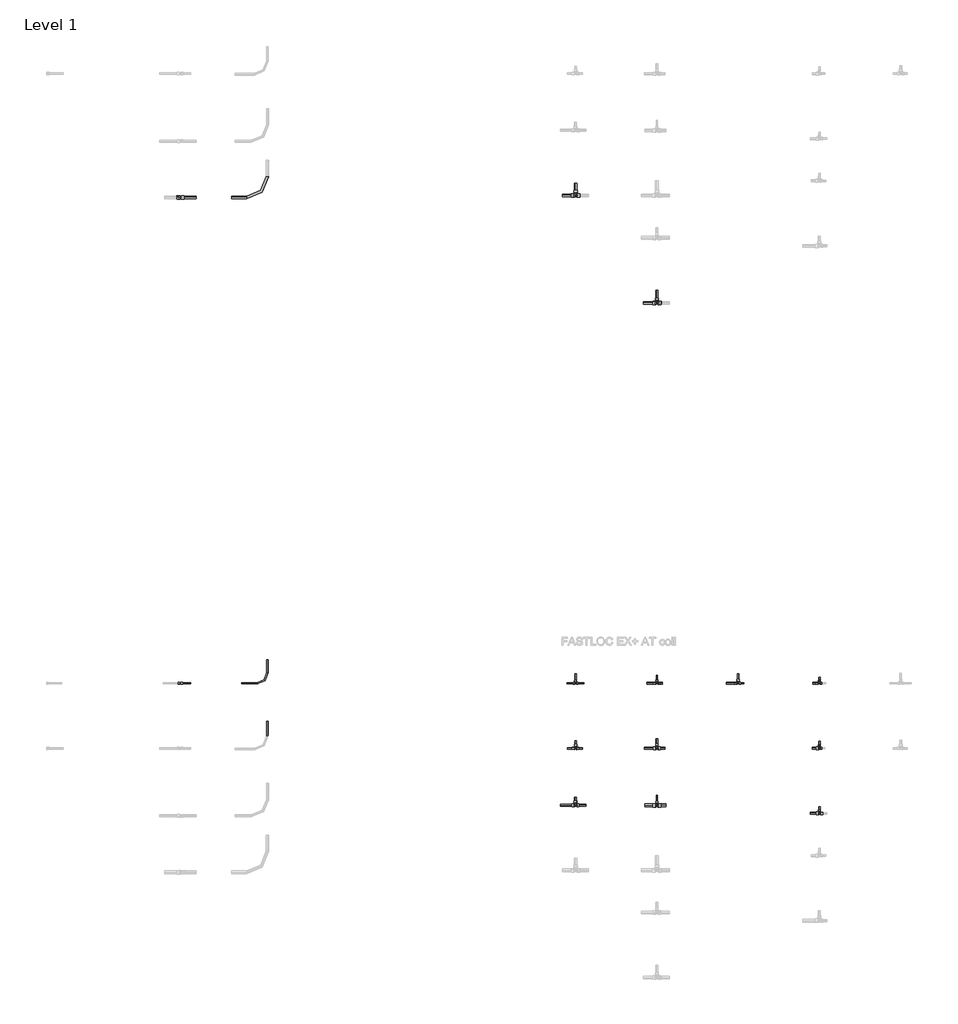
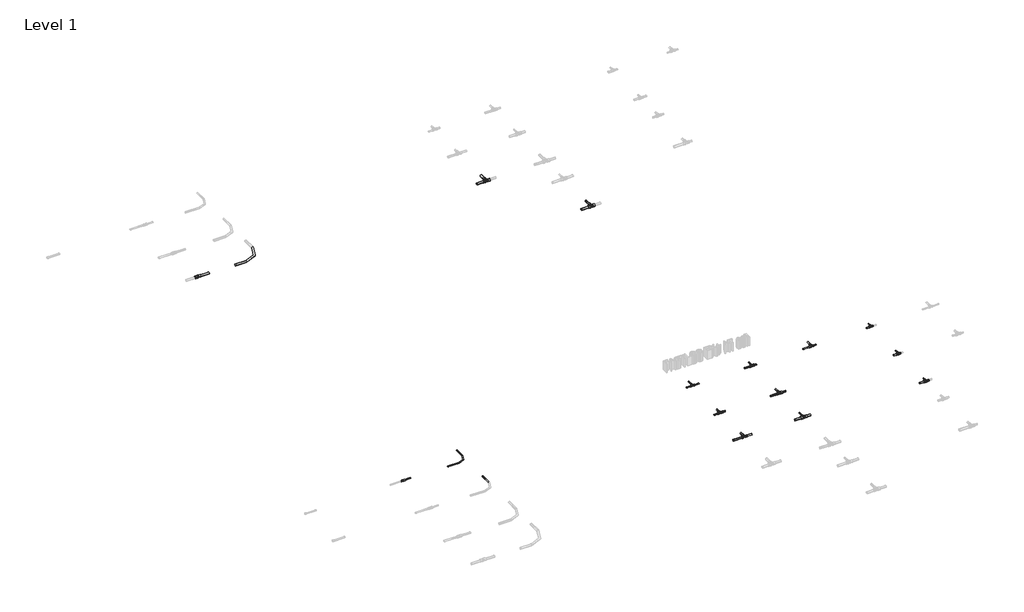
# One storey, part 6 of 16: 37 pipe segments, 18 pipe fittings.
"""IFC4 building model written with IfcOpenShell, lengths in millimetres."""

from ifc_helpers import new_model, si_unit, point, frame, frame_2d, origin, place, context, project, spatial, circle_curve, trimmed, segment, composite_curve, outline, extrude, transform, mapped, element, save
from components import pipe_fitting_ffedae39, pipe_fitting_7921c085, pipe_fitting_137fcba6, pipe_fitting_67dfde5a, pipe_fitting_bb304fa9, pipe_fitting_59775212, pipe_fitting_747b917b, pipe_fitting_d1a48cca, pipe_fitting_e42a4af1, pipe_fitting_e7337aea, pipe_fitting_b316c006, pipe_fitting_93b3fcde, pipe_fitting_ef50923d, pipe_fitting_f3faa13c, pipe_fitting_a9a2f976, pipe_fitting_c9c9eba3, pipe_fitting_a8fbe6ac, pipe_fitting_beb2161e

model = new_model("IFC4")

# Units and contexts
model_context = context("Model", 3, world=origin())
ifc_project = project(units=[si_unit("LENGTHUNIT", "METRE", prefix="MILLI")], contexts=[model_context])

# Site, building, storey
site = spatial("IfcSite", under=ifc_project)
building = spatial("IfcBuilding", under=site)
storey = spatial("IfcBuildingStorey", under=building, Name="Level 1", Elevation=0.0)

# Pipe fittings
placement = place(None, origin())
pipe_fitting_shape = pipe_fitting_ffedae39(model_context)
element("IfcPipeFitting", 1, ObjectType="FASTLOC_ML_bend : FSL ML DE", at=placement, inside=storey, context=model_context, shape_type="MappedRepresentation", body=[
    mapped(pipe_fitting_shape, transform((25170.2040344, -311.8142398, 0.0), x_axis=(1.0, 0.0, 0.0), y_axis=(0.0, 1.0, 0.0), z_axis=(0.0, 0.0, 1.0))),
])
pipe_fitting_2_shape = pipe_fitting_7921c085(model_context)
element("IfcPipeFitting", 2, ObjectType="FASTLOC_T-piece_EX+ : FSL T-Piece EX+ DE", at=placement, inside=storey, context=model_context, shape_type="MappedRepresentation", body=[
    mapped(pipe_fitting_2_shape, transform((28962.9146925, -287.6479967, 0.0), x_axis=(1.0, 0.0, 0.0), y_axis=(0.0, 1.0, 0.0), z_axis=(0.0, 0.0, 1.0))),
])
pipe_fitting_3_shape = pipe_fitting_137fcba6(model_context)
element("IfcPipeFitting", 3, ObjectType="FASTLOC_T-piece_EX+ : FSL T-Piece EX+ DE", at=placement, inside=storey, context=model_context, shape_type="MappedRepresentation", body=[
    mapped(pipe_fitting_3_shape, transform((29962.9146925, -1607.6479967, 0.0), x_axis=(1.0, 0.0, 0.0), y_axis=(0.0, 1.0, 0.0), z_axis=(0.0, 0.0, 1.0))),
])
pipe_fitting_4_shape = pipe_fitting_67dfde5a(model_context)
element("IfcPipeFitting", 4, ObjectType="FASTLOC_T-piece_EX+ : FSL T-Piece EX+ AT", at=placement, inside=storey, context=model_context, shape_type="MappedRepresentation", body=[
    mapped(pipe_fitting_4_shape, transform((28962.9146925, -6287.6479967, 0.0), x_axis=(1.0, 0.0, 0.0), y_axis=(0.0, 1.0, 0.0), z_axis=(0.0, 0.0, 1.0))),
])
pipe_fitting_5_shape = pipe_fitting_bb304fa9(model_context)
element("IfcPipeFitting", 5, ObjectType="FASTLOC_T-piece_EX+ : FSL T-Piece EX+ AT", at=placement, inside=storey, context=model_context, shape_type="MappedRepresentation", body=[
    mapped(pipe_fitting_5_shape, transform((28962.9146925, -7087.6479967, 0.0), x_axis=(1.0, 0.0, 0.0), y_axis=(0.0, 1.0, 0.0), z_axis=(0.0, 0.0, 1.0))),
])
pipe_fitting_6_shape = pipe_fitting_59775212(model_context)
element("IfcPipeFitting", 6, ObjectType="FASTLOC_T-piece_EX+ : FSL T-Piece EX+ AT", at=placement, inside=storey, context=model_context, shape_type="MappedRepresentation", body=[
    mapped(pipe_fitting_6_shape, transform((28962.9146925, -7787.6479967, 0.0), x_axis=(1.0, 0.0, 0.0), y_axis=(0.0, 1.0, 0.0), z_axis=(0.0, 0.0, 1.0))),
])
pipe_fitting_7_shape = pipe_fitting_747b917b(model_context)
element("IfcPipeFitting", 7, ObjectType="FASTLOC_T-piece_EX+ : FSL T-Piece EX+ AT", at=placement, inside=storey, context=model_context, shape_type="MappedRepresentation", body=[
    mapped(pipe_fitting_7_shape, transform((29962.9146925, -6287.6479967, 0.0), x_axis=(1.0, 0.0, 0.0), y_axis=(0.0, 1.0, 0.0), z_axis=(0.0, 0.0, 1.0))),
])
pipe_fitting_8_shape = pipe_fitting_d1a48cca(model_context)
element("IfcPipeFitting", 8, ObjectType="FASTLOC_T-piece_EX+ : FSL T-Piece EX+ AT", at=placement, inside=storey, context=model_context, shape_type="MappedRepresentation", body=[
    mapped(pipe_fitting_8_shape, transform((29962.9146925, -7087.6479967, 0.0), x_axis=(1.0, 0.0, 0.0), y_axis=(0.0, 1.0, 0.0), z_axis=(0.0, 0.0, 1.0))),
])
pipe_fitting_9_shape = pipe_fitting_e42a4af1(model_context)
element("IfcPipeFitting", 9, ObjectType="FASTLOC_T-piece_EX+ : FSL T-Piece EX+ AT", at=placement, inside=storey, context=model_context, shape_type="MappedRepresentation", body=[
    mapped(pipe_fitting_9_shape, transform((29962.9146925, -7787.6479967, 0.0), x_axis=(1.0, 0.0, 0.0), y_axis=(0.0, 1.0, 0.0), z_axis=(0.0, 0.0, 1.0))),
])
pipe_fitting_10_shape = pipe_fitting_e7337aea(model_context)
element("IfcPipeFitting", 10, ObjectType="FASTLOC_T-piece_EX+ : FSL T-Piece EX+ AT", at=placement, inside=storey, context=model_context, shape_type="MappedRepresentation", body=[
    mapped(pipe_fitting_10_shape, transform((30962.9146925, -6287.6479967, 0.0), x_axis=(1.0, 0.0, 0.0), y_axis=(0.0, 1.0, 0.0), z_axis=(0.0, 0.0, 1.0))),
])
pipe_fitting_11_shape = pipe_fitting_b316c006(model_context)
element("IfcPipeFitting", 11, ObjectType="FASTLOC_T-piece_EX+ : FSL T-Piece EX+ AT", at=placement, inside=storey, context=model_context, shape_type="MappedRepresentation", body=[
    mapped(pipe_fitting_11_shape, transform((31962.9146925, -6287.6479967, 0.0), x_axis=(1.0, 0.0, 0.0), y_axis=(0.0, 1.0, 0.0), z_axis=(0.0, 0.0, 1.0))),
])
pipe_fitting_12_shape = pipe_fitting_93b3fcde(model_context)
element("IfcPipeFitting", 12, ObjectType="FASTLOC_T-piece_EX+ : FSL T-Piece EX+ AT", at=placement, inside=storey, context=model_context, shape_type="MappedRepresentation", body=[
    mapped(pipe_fitting_12_shape, transform((31962.9146925, -7087.6479967, 0.0), x_axis=(1.0, 0.0, 0.0), y_axis=(0.0, 1.0, 0.0), z_axis=(0.0, 0.0, 1.0))),
])
pipe_fitting_13_shape = pipe_fitting_ef50923d(model_context)
element("IfcPipeFitting", 13, ObjectType="FASTLOC_T-piece_EX+ : FSL T-Piece EX+ AT", at=placement, inside=storey, context=model_context, shape_type="MappedRepresentation", body=[
    mapped(pipe_fitting_13_shape, transform((31962.9146925, -7887.6479967, 0.0), x_axis=(1.0, 0.0, 0.0), y_axis=(0.0, 1.0, 0.0), z_axis=(0.0, 0.0, 1.0))),
])
pipe_fitting_14_shape = pipe_fitting_f3faa13c(model_context)
element("IfcPipeFitting", 14, ObjectType="FASTLOC_Adapter coupling EX+ : FSL TC EX+ AT", at=placement, inside=storey, context=model_context, shape_type="MappedRepresentation", body=[
    mapped(pipe_fitting_14_shape, transform((24091.3241081, -6287.6479967, 13.7), x_axis=(1.0, 0.0, 0.0), y_axis=(0.0, 1.0, 0.0), z_axis=(0.0, 0.0, 1.0))),
])
pipe_fitting_15_shape = pipe_fitting_a9a2f976(model_context)
element("IfcPipeFitting", 15, ObjectType="FASTLOC_ML_bend : FSL ML AT", at=placement, inside=storey, context=model_context, shape_type="MappedRepresentation", body=[
    mapped(pipe_fitting_15_shape, transform((25170.2040344, -6287.6479967, 0.0), x_axis=(1.0, 0.0, 0.0), y_axis=(0.0, 1.0, 0.0), z_axis=(0.0, 0.0, 1.0))),
])
pipe_fitting_16_shape = pipe_fitting_c9c9eba3(model_context)
element("IfcPipeFitting", 16, ObjectType="RAUTITAN_Sleeve PX : RTI S PX", at=placement, inside=storey, context=model_context, shape_type="MappedRepresentation", body=[
    mapped(pipe_fitting_16_shape, transform((24105.0241081, -6287.6479967, 13.7), x_axis=(1.0, 0.0, 0.0), y_axis=(0.0, 1.0, 0.0), z_axis=(0.0, 0.0, 1.0))),
])
pipe_fitting_17_shape = pipe_fitting_a8fbe6ac(model_context)
element("IfcPipeFitting", 17, ObjectType="RAUTITAN_Sleeve PX : RTI S PX", at=placement, inside=storey, context=model_context, shape_type="MappedRepresentation", body=[
    mapped(pipe_fitting_17_shape, transform((24110.6241081, -311.8142398, 13.7), x_axis=(1.0, 0.0, 0.0), y_axis=(0.0, 1.0, 0.0), z_axis=(0.0, 0.0, 1.0))),
])
pipe_fitting_18_shape = pipe_fitting_beb2161e(model_context)
element("IfcPipeFitting", 18, ObjectType="FASTLOC_Adapter coupling EX+ : FSL TC EX+ DE", at=placement, inside=storey, context=model_context, shape_type="MappedRepresentation", body=[
    mapped(pipe_fitting_18_shape, transform((24091.3241081, -311.8142398, 13.7), x_axis=(1.0, 0.0, 0.0), y_axis=(0.0, 1.0, 0.0), z_axis=(0.0, 0.0, 1.0))),
])

# Pipe segments
element("IfcPipeSegment", 19, ObjectType="FASTLOC EX+ ML DE bar", at=placement, inside=storey, context=model_context, shape_type="SweptSolid", body=[
    extrude(outline(composite_curve([segment(trimmed(circle_curve(frame_2d((-311.8142398, 0.0)), 16.0), [point((-295.8142398, 0.0))], [point((-311.8142398, -16.0))], False, "CARTESIAN"), True, "CONTINUOUS"), segment(trimmed(circle_curve(frame_2d((-311.8142398, 0.0)), 16.0), [point((-311.8142398, -16.0))], [point((-327.8142398, 0.0))], False, "CARTESIAN"), True, "CONTINUOUS"), segment(trimmed(circle_curve(frame_2d((-311.8142398, 0.0)), 16.0), [point((-327.8142398, 0.0))], [point((-311.8142398, 16.0))], False, "CARTESIAN"), True, "CONTINUOUS"), segment(trimmed(circle_curve(frame_2d((-311.8142398, 0.0)), 16.0), [point((-311.8142398, 16.0))], [point((-295.8142398, 0.0))], False, "CARTESIAN"), True, "CONTINUOUS")], self_intersect=False)), frame((24730.2040344, 0.0, 0.0), z_axis=(1.0, 0.0, 0.0), x_axis=(0.0, 1.0, 0.0)), (0.0, 0.0, 1.0), 184.0),
])
element("IfcPipeSegment", 20, ObjectType="FASTLOC EX+ ML DE bar", at=placement, inside=storey, context=model_context, shape_type="SweptSolid", body=[
    extrude(outline(composite_curve([segment(trimmed(circle_curve(frame_2d((-311.8142398, 13.7)), 16.0), [point((-327.8142398, 13.7))], [point((-311.8142398, 29.7))], False, "CARTESIAN"), True, "CONTINUOUS"), segment(trimmed(circle_curve(frame_2d((-311.8142398, 13.7)), 16.0), [point((-311.8142398, 29.7))], [point((-295.8142398, 13.7))], False, "CARTESIAN"), True, "CONTINUOUS"), segment(trimmed(circle_curve(frame_2d((-311.8142398, 13.7)), 16.0), [point((-295.8142398, 13.7))], [point((-311.8142398, -2.3))], False, "CARTESIAN"), True, "CONTINUOUS"), segment(trimmed(circle_curve(frame_2d((-311.8142398, 13.7)), 16.0), [point((-311.8142398, -2.3))], [point((-327.8142398, 13.7))], False, "CARTESIAN"), True, "CONTINUOUS")], self_intersect=False)), frame((24110.6241081, 0.0, 0.0), z_axis=(1.0, 0.0, 0.0), x_axis=(0.0, 1.0, 0.0)), (0.0, 0.0, 1.0), 180.0),
])
element("IfcPipeSegment", 21, ObjectType="FASTLOC EX+ ML AT bar", at=placement, inside=storey, context=model_context, shape_type="SweptSolid", body=[
    extrude(outline(composite_curve([segment(trimmed(circle_curve(frame_2d((0.0, 25170.2040344)), 8.0), [point((0.0, 25178.2040344))], [point((8.0, 25170.2040344))], False, "CARTESIAN"), True, "CONTINUOUS"), segment(trimmed(circle_curve(frame_2d((0.0, 25170.2040344)), 8.0), [point((8.0, 25170.2040344))], [point((0.0, 25162.2040344))], False, "CARTESIAN"), True, "CONTINUOUS"), segment(trimmed(circle_curve(frame_2d((0.0, 25170.2040344)), 8.0), [point((0.0, 25162.2040344))], [point((-8.0, 25170.2040344))], False, "CARTESIAN"), True, "CONTINUOUS"), segment(trimmed(circle_curve(frame_2d((0.0, 25170.2040344)), 8.0), [point((-8.0, 25170.2040344))], [point((0.0, 25178.2040344))], False, "CARTESIAN"), True, "CONTINUOUS")], self_intersect=False)), frame((0.0, -6159.6479967, 0.0), z_axis=(0.0, 1.0, 0.0), x_axis=(0.0, 0.0, 1.0)), (0.0, 0.0, 1.0), 160.0),
])
element("IfcPipeSegment", 22, ObjectType="FASTLOC EX+ ML AT bar", at=placement, inside=storey, context=model_context, shape_type="SweptSolid", body=[
    extrude(outline(composite_curve([segment(trimmed(circle_curve(frame_2d((-6287.6479967, 0.0)), 8.0), [point((-6279.6479967, 0.0))], [point((-6287.6479967, -8.0))], False, "CARTESIAN"), True, "CONTINUOUS"), segment(trimmed(circle_curve(frame_2d((-6287.6479967, 0.0)), 8.0), [point((-6287.6479967, -8.0))], [point((-6295.6479967, 0.0))], False, "CARTESIAN"), True, "CONTINUOUS"), segment(trimmed(circle_curve(frame_2d((-6287.6479967, 0.0)), 8.0), [point((-6295.6479967, 0.0))], [point((-6287.6479967, 8.0))], False, "CARTESIAN"), True, "CONTINUOUS"), segment(trimmed(circle_curve(frame_2d((-6287.6479967, 0.0)), 8.0), [point((-6287.6479967, 8.0))], [point((-6279.6479967, 0.0))], False, "CARTESIAN"), True, "CONTINUOUS")], self_intersect=False)), frame((24850.2040344, 0.0, 0.0), z_axis=(1.0, 0.0, 0.0), x_axis=(0.0, 1.0, 0.0)), (0.0, 0.0, 1.0), 192.0),
])
element("IfcPipeSegment", 23, ObjectType="FASTLOC EX+ ML AT bar", at=placement, inside=storey, context=model_context, shape_type="SweptSolid", body=[
    extrude(outline(composite_curve([segment(trimmed(circle_curve(frame_2d((0.0, 25170.2040344)), 10.0), [point((0.0, 25180.2040344))], [point((10.0, 25170.2040344))], False, "CARTESIAN"), True, "CONTINUOUS"), segment(trimmed(circle_curve(frame_2d((0.0, 25170.2040344)), 10.0), [point((10.0, 25170.2040344))], [point((0.0, 25160.2040344))], False, "CARTESIAN"), True, "CONTINUOUS"), segment(trimmed(circle_curve(frame_2d((0.0, 25170.2040344)), 10.0), [point((0.0, 25160.2040344))], [point((-10.0, 25170.2040344))], False, "CARTESIAN"), True, "CONTINUOUS"), segment(trimmed(circle_curve(frame_2d((0.0, 25170.2040344)), 10.0), [point((-10.0, 25170.2040344))], [point((0.0, 25180.2040344))], False, "CARTESIAN"), True, "CONTINUOUS")], self_intersect=False)), frame((0.0, -6935.6479967, 0.0), z_axis=(0.0, 1.0, 0.0), x_axis=(0.0, 0.0, 1.0)), (0.0, 0.0, 1.0), 180.0),
])
element("IfcPipeSegment", 24, ObjectType="FASTLOC EX+ ML AT bar", at=placement, inside=storey, context=model_context, shape_type="SweptSolid", body=[
    extrude(outline(composite_curve([segment(trimmed(circle_curve(frame_2d((-6287.6479967, 13.7)), 8.0), [point((-6295.6479967, 13.7))], [point((-6287.6479967, 21.7))], False, "CARTESIAN"), True, "CONTINUOUS"), segment(trimmed(circle_curve(frame_2d((-6287.6479967, 13.7)), 8.0), [point((-6287.6479967, 21.7))], [point((-6279.6479967, 13.7))], False, "CARTESIAN"), True, "CONTINUOUS"), segment(trimmed(circle_curve(frame_2d((-6287.6479967, 13.7)), 8.0), [point((-6279.6479967, 13.7))], [point((-6287.6479967, 5.7))], False, "CARTESIAN"), True, "CONTINUOUS"), segment(trimmed(circle_curve(frame_2d((-6287.6479967, 13.7)), 8.0), [point((-6287.6479967, 5.7))], [point((-6295.6479967, 13.7))], False, "CARTESIAN"), True, "CONTINUOUS")], self_intersect=False)), frame((24105.0241081, 0.0, 0.0), z_axis=(1.0, 0.0, 0.0), x_axis=(0.0, 1.0, 0.0)), (0.0, 0.0, 1.0), 120.6),
])
element("IfcPipeSegment", 25, ObjectType="FASTLOC EX+ ML DE coil", at=placement, inside=storey, context=model_context, shape_type="SweptSolid", body=[
    extrude(outline(composite_curve([segment(trimmed(circle_curve(frame_2d((-1607.6479967, 0.0)), 16.0), [point((-1591.6479967, 0.0))], [point((-1607.6479967, -16.0))], False, "CARTESIAN"), True, "CONTINUOUS"), segment(trimmed(circle_curve(frame_2d((-1607.6479967, 0.0)), 16.0), [point((-1607.6479967, -16.0))], [point((-1623.6479967, 0.0))], False, "CARTESIAN"), True, "CONTINUOUS"), segment(trimmed(circle_curve(frame_2d((-1607.6479967, 0.0)), 16.0), [point((-1623.6479967, 0.0))], [point((-1607.6479967, 16.0))], False, "CARTESIAN"), True, "CONTINUOUS"), segment(trimmed(circle_curve(frame_2d((-1607.6479967, 0.0)), 16.0), [point((-1607.6479967, 16.0))], [point((-1591.6479967, 0.0))], False, "CARTESIAN"), True, "CONTINUOUS")], self_intersect=False)), frame((29795.9146925, 0.0, 0.0), z_axis=(1.0, 0.0, 0.0), x_axis=(0.0, 1.0, 0.0)), (0.0, 0.0, 1.0), 145.0),
])
element("IfcPipeSegment", 26, ObjectType="FASTLOC EX+ ML DE coil", at=placement, inside=storey, context=model_context, shape_type="SweptSolid", body=[
    extrude(outline(composite_curve([segment(trimmed(circle_curve(frame_2d((0.0, 29962.9146925)), 12.5), [point((0.0, 29975.4146925))], [point((12.5, 29962.9146925))], False, "CARTESIAN"), True, "CONTINUOUS"), segment(trimmed(circle_curve(frame_2d((0.0, 29962.9146925)), 12.5), [point((12.5, 29962.9146925))], [point((0.0, 29950.4146925))], False, "CARTESIAN"), True, "CONTINUOUS"), segment(trimmed(circle_curve(frame_2d((0.0, 29962.9146925)), 12.5), [point((0.0, 29950.4146925))], [point((-12.5, 29962.9146925))], False, "CARTESIAN"), True, "CONTINUOUS"), segment(trimmed(circle_curve(frame_2d((0.0, 29962.9146925)), 12.5), [point((-12.5, 29962.9146925))], [point((0.0, 29975.4146925))], False, "CARTESIAN"), True, "CONTINUOUS")], self_intersect=False)), frame((0.0, -1573.2479967, 0.0), z_axis=(0.0, 1.0, 0.0), x_axis=(0.0, 0.0, 1.0)), (0.0, 0.0, 1.0), 120.0),
])
element("IfcPipeSegment", 27, ObjectType="FASTLOC EX+ ML DE coil", at=placement, inside=storey, context=model_context, shape_type="SweptSolid", body=[
    extrude(outline(composite_curve([segment(trimmed(circle_curve(frame_2d((-287.6479967, 0.0)), 16.0), [point((-271.6479967, 0.0))], [point((-287.6479967, -16.0))], False, "CARTESIAN"), True, "CONTINUOUS"), segment(trimmed(circle_curve(frame_2d((-287.6479967, 0.0)), 16.0), [point((-287.6479967, -16.0))], [point((-303.6479967, 0.0))], False, "CARTESIAN"), True, "CONTINUOUS"), segment(trimmed(circle_curve(frame_2d((-287.6479967, 0.0)), 16.0), [point((-303.6479967, 0.0))], [point((-287.6479967, 16.0))], False, "CARTESIAN"), True, "CONTINUOUS"), segment(trimmed(circle_curve(frame_2d((-287.6479967, 0.0)), 16.0), [point((-287.6479967, 16.0))], [point((-271.6479967, 0.0))], False, "CARTESIAN"), True, "CONTINUOUS")], self_intersect=False)), frame((28803.1146925, 0.0, 0.0), z_axis=(1.0, 0.0, 0.0), x_axis=(0.0, 1.0, 0.0)), (0.0, 0.0, 1.0), 135.0),
])
element("IfcPipeSegment", 28, ObjectType="FASTLOC EX+ ML DE coil", at=placement, inside=storey, context=model_context, shape_type="SweptSolid", body=[
    extrude(outline(composite_curve([segment(trimmed(circle_curve(frame_2d((0.0, 28962.9146925)), 16.0), [point((0.0, 28978.9146925))], [point((16.0, 28962.9146925))], False, "CARTESIAN"), True, "CONTINUOUS"), segment(trimmed(circle_curve(frame_2d((0.0, 28962.9146925)), 16.0), [point((16.0, 28962.9146925))], [point((0.0, 28946.9146925))], False, "CARTESIAN"), True, "CONTINUOUS"), segment(trimmed(circle_curve(frame_2d((0.0, 28962.9146925)), 16.0), [point((0.0, 28946.9146925))], [point((-16.0, 28962.9146925))], False, "CARTESIAN"), True, "CONTINUOUS"), segment(trimmed(circle_curve(frame_2d((0.0, 28962.9146925)), 16.0), [point((-16.0, 28962.9146925))], [point((0.0, 28978.9146925))], False, "CARTESIAN"), True, "CONTINUOUS")], self_intersect=False)), frame((0.0, -251.5479967, 0.0), z_axis=(0.0, 1.0, 0.0), x_axis=(0.0, 0.0, 1.0)), (0.0, 0.0, 1.0), 115.0),
])
element("IfcPipeSegment", 29, ObjectType="FASTLOC EX+ ML AT coil", at=placement, inside=storey, context=model_context, shape_type="SweptSolid", body=[
    extrude(outline(composite_curve([segment(trimmed(circle_curve(frame_2d((-6287.6479967, 0.0)), 10.0), [point((-6277.6479967, 0.0))], [point((-6287.6479967, -10.0))], False, "CARTESIAN"), True, "CONTINUOUS"), segment(trimmed(circle_curve(frame_2d((-6287.6479967, 0.0)), 10.0), [point((-6287.6479967, -10.0))], [point((-6297.6479967, 0.0))], False, "CARTESIAN"), True, "CONTINUOUS"), segment(trimmed(circle_curve(frame_2d((-6287.6479967, 0.0)), 10.0), [point((-6297.6479967, 0.0))], [point((-6287.6479967, 10.0))], False, "CARTESIAN"), True, "CONTINUOUS"), segment(trimmed(circle_curve(frame_2d((-6287.6479967, 0.0)), 10.0), [point((-6287.6479967, 10.0))], [point((-6277.6479967, 0.0))], False, "CARTESIAN"), True, "CONTINUOUS")], self_intersect=False)), frame((31882.4146925, 0.0, 0.0), z_axis=(1.0, 0.0, 0.0), x_axis=(0.0, 1.0, 0.0)), (0.0, 0.0, 1.0), 65.0),
])
element("IfcPipeSegment", 30, ObjectType="FASTLOC EX+ ML AT coil", at=placement, inside=storey, context=model_context, shape_type="SweptSolid", body=[
    extrude(outline(composite_curve([segment(trimmed(circle_curve(frame_2d((0.0, 31962.9146925)), 8.0), [point((0.0, 31970.9146925))], [point((8.0, 31962.9146925))], False, "CARTESIAN"), True, "CONTINUOUS"), segment(trimmed(circle_curve(frame_2d((0.0, 31962.9146925)), 8.0), [point((8.0, 31962.9146925))], [point((0.0, 31954.9146925))], False, "CARTESIAN"), True, "CONTINUOUS"), segment(trimmed(circle_curve(frame_2d((0.0, 31962.9146925)), 8.0), [point((0.0, 31954.9146925))], [point((-8.0, 31962.9146925))], False, "CARTESIAN"), True, "CONTINUOUS"), segment(trimmed(circle_curve(frame_2d((0.0, 31962.9146925)), 8.0), [point((-8.0, 31962.9146925))], [point((0.0, 31970.9146925))], False, "CARTESIAN"), True, "CONTINUOUS")], self_intersect=False)), frame((0.0, -6261.2479967, 0.0), z_axis=(0.0, 1.0, 0.0), x_axis=(0.0, 0.0, 1.0)), (0.0, 0.0, 1.0), 50.0),
])
element("IfcPipeSegment", 31, ObjectType="FASTLOC EX+ ML AT coil", at=placement, inside=storey, context=model_context, shape_type="SweptSolid", body=[
    extrude(outline(composite_curve([segment(trimmed(circle_curve(frame_2d((-7087.6479967, 0.0)), 12.5), [point((-7075.1479967, 0.0))], [point((-7087.6479967, -12.5))], False, "CARTESIAN"), True, "CONTINUOUS"), segment(trimmed(circle_curve(frame_2d((-7087.6479967, 0.0)), 12.5), [point((-7087.6479967, -12.5))], [point((-7100.1479967, 0.0))], False, "CARTESIAN"), True, "CONTINUOUS"), segment(trimmed(circle_curve(frame_2d((-7087.6479967, 0.0)), 12.5), [point((-7100.1479967, 0.0))], [point((-7087.6479967, 12.5))], False, "CARTESIAN"), True, "CONTINUOUS"), segment(trimmed(circle_curve(frame_2d((-7087.6479967, 0.0)), 12.5), [point((-7087.6479967, 12.5))], [point((-7075.1479967, 0.0))], False, "CARTESIAN"), True, "CONTINUOUS")], self_intersect=False)), frame((31876.5146925, 0.0, 0.0), z_axis=(1.0, 0.0, 0.0), x_axis=(0.0, 1.0, 0.0)), (0.0, 0.0, 1.0), 70.0),
])
element("IfcPipeSegment", 32, ObjectType="FASTLOC EX+ ML AT coil", at=placement, inside=storey, context=model_context, shape_type="SweptSolid", body=[
    extrude(outline(composite_curve([segment(trimmed(circle_curve(frame_2d((0.0, 31962.9146925)), 8.0), [point((0.0, 31970.9146925))], [point((8.0, 31962.9146925))], False, "CARTESIAN"), True, "CONTINUOUS"), segment(trimmed(circle_curve(frame_2d((0.0, 31962.9146925)), 8.0), [point((8.0, 31962.9146925))], [point((0.0, 31954.9146925))], False, "CARTESIAN"), True, "CONTINUOUS"), segment(trimmed(circle_curve(frame_2d((0.0, 31962.9146925)), 8.0), [point((0.0, 31954.9146925))], [point((-8.0, 31962.9146925))], False, "CARTESIAN"), True, "CONTINUOUS"), segment(trimmed(circle_curve(frame_2d((0.0, 31962.9146925)), 8.0), [point((-8.0, 31962.9146925))], [point((0.0, 31970.9146925))], False, "CARTESIAN"), True, "CONTINUOUS")], self_intersect=False)), frame((0.0, -7058.5479967, 0.0), z_axis=(0.0, 1.0, 0.0), x_axis=(0.0, 0.0, 1.0)), (0.0, 0.0, 1.0), 57.2788778),
])
element("IfcPipeSegment", 33, ObjectType="FASTLOC EX+ ML AT coil", at=placement, inside=storey, context=model_context, shape_type="SweptSolid", body=[
    extrude(outline(composite_curve([segment(trimmed(circle_curve(frame_2d((0.0, 31962.9146925)), 8.0), [point((0.0, 31970.9146925))], [point((8.0, 31962.9146925))], False, "CARTESIAN"), True, "CONTINUOUS"), segment(trimmed(circle_curve(frame_2d((0.0, 31962.9146925)), 8.0), [point((8.0, 31962.9146925))], [point((0.0, 31954.9146925))], False, "CARTESIAN"), True, "CONTINUOUS"), segment(trimmed(circle_curve(frame_2d((0.0, 31962.9146925)), 8.0), [point((0.0, 31954.9146925))], [point((-8.0, 31962.9146925))], False, "CARTESIAN"), True, "CONTINUOUS"), segment(trimmed(circle_curve(frame_2d((0.0, 31962.9146925)), 8.0), [point((-8.0, 31962.9146925))], [point((0.0, 31970.9146925))], False, "CARTESIAN"), True, "CONTINUOUS")], self_intersect=False)), frame((0.0, -7858.5479967, 0.0), z_axis=(0.0, 1.0, 0.0), x_axis=(0.0, 0.0, 1.0)), (0.0, 0.0, 1.0), 50.0),
])
element("IfcPipeSegment", 34, ObjectType="FASTLOC EX+ ML AT coil", at=placement, inside=storey, context=model_context, shape_type="SweptSolid", body=[
    extrude(outline(composite_curve([segment(trimmed(circle_curve(frame_2d((-7887.6479967, 0.0)), 12.5), [point((-7875.1479967, 0.0))], [point((-7887.6479967, -12.5))], False, "CARTESIAN"), True, "CONTINUOUS"), segment(trimmed(circle_curve(frame_2d((-7887.6479967, 0.0)), 12.5), [point((-7887.6479967, -12.5))], [point((-7900.1479967, 0.0))], False, "CARTESIAN"), True, "CONTINUOUS"), segment(trimmed(circle_curve(frame_2d((-7887.6479967, 0.0)), 12.5), [point((-7900.1479967, 0.0))], [point((-7887.6479967, 12.5))], False, "CARTESIAN"), True, "CONTINUOUS"), segment(trimmed(circle_curve(frame_2d((-7887.6479967, 0.0)), 12.5), [point((-7887.6479967, 12.5))], [point((-7875.1479967, 0.0))], False, "CARTESIAN"), True, "CONTINUOUS")], self_intersect=False)), frame((31851.5146925, 0.0, 0.0), z_axis=(1.0, 0.0, 0.0), x_axis=(0.0, 1.0, 0.0)), (0.0, 0.0, 1.0), 95.0),
])
element("IfcPipeSegment", 35, ObjectType="FASTLOC EX+ ML AT coil", at=placement, inside=storey, context=model_context, shape_type="SweptSolid", body=[
    extrude(outline(composite_curve([segment(trimmed(circle_curve(frame_2d((-6287.6479967, 0.0)), 8.0), [point((-6295.6479967, 0.0))], [point((-6287.6479967, 8.0))], False, "CARTESIAN"), True, "CONTINUOUS"), segment(trimmed(circle_curve(frame_2d((-6287.6479967, 0.0)), 8.0), [point((-6287.6479967, 8.0))], [point((-6279.6479967, 0.0))], False, "CARTESIAN"), True, "CONTINUOUS"), segment(trimmed(circle_curve(frame_2d((-6287.6479967, 0.0)), 8.0), [point((-6279.6479967, 0.0))], [point((-6287.6479967, -8.0))], False, "CARTESIAN"), True, "CONTINUOUS"), segment(trimmed(circle_curve(frame_2d((-6287.6479967, 0.0)), 8.0), [point((-6287.6479967, -8.0))], [point((-6295.6479967, 0.0))], False, "CARTESIAN"), True, "CONTINUOUS")], self_intersect=False)), frame((30979.9146925, 0.0, 0.0), z_axis=(1.0, 0.0, 0.0), x_axis=(0.0, 1.0, 0.0)), (0.0, 0.0, 1.0), 55.0),
])
element("IfcPipeSegment", 36, ObjectType="FASTLOC EX+ ML AT coil", at=placement, inside=storey, context=model_context, shape_type="SweptSolid", body=[
    extrude(outline(composite_curve([segment(trimmed(circle_curve(frame_2d((0.0, 30962.9146925)), 10.0), [point((0.0, 30972.9146925))], [point((10.0, 30962.9146925))], False, "CARTESIAN"), True, "CONTINUOUS"), segment(trimmed(circle_curve(frame_2d((0.0, 30962.9146925)), 10.0), [point((10.0, 30962.9146925))], [point((0.0, 30952.9146925))], False, "CARTESIAN"), True, "CONTINUOUS"), segment(trimmed(circle_curve(frame_2d((0.0, 30962.9146925)), 10.0), [point((0.0, 30952.9146925))], [point((-10.0, 30962.9146925))], False, "CARTESIAN"), True, "CONTINUOUS"), segment(trimmed(circle_curve(frame_2d((0.0, 30962.9146925)), 10.0), [point((-10.0, 30962.9146925))], [point((0.0, 30972.9146925))], False, "CARTESIAN"), True, "CONTINUOUS")], self_intersect=False)), frame((0.0, -6261.2479967, 0.0), z_axis=(0.0, 1.0, 0.0), x_axis=(0.0, 0.0, 1.0)), (0.0, 0.0, 1.0), 90.0),
])
element("IfcPipeSegment", 37, ObjectType="FASTLOC EX+ ML AT coil", at=placement, inside=storey, context=model_context, shape_type="SweptSolid", body=[
    extrude(outline(composite_curve([segment(trimmed(circle_curve(frame_2d((-6287.6479967, 0.0)), 10.0), [point((-6277.6479967, 0.0))], [point((-6287.6479967, -10.0))], False, "CARTESIAN"), True, "CONTINUOUS"), segment(trimmed(circle_curve(frame_2d((-6287.6479967, 0.0)), 10.0), [point((-6287.6479967, -10.0))], [point((-6297.6479967, 0.0))], False, "CARTESIAN"), True, "CONTINUOUS"), segment(trimmed(circle_curve(frame_2d((-6287.6479967, 0.0)), 10.0), [point((-6297.6479967, 0.0))], [point((-6287.6479967, 10.0))], False, "CARTESIAN"), True, "CONTINUOUS"), segment(trimmed(circle_curve(frame_2d((-6287.6479967, 0.0)), 10.0), [point((-6287.6479967, 10.0))], [point((-6277.6479967, 0.0))], False, "CARTESIAN"), True, "CONTINUOUS")], self_intersect=False)), frame((30815.5146925, 0.0, 0.0), z_axis=(1.0, 0.0, 0.0), x_axis=(0.0, 1.0, 0.0)), (0.0, 0.0, 1.0), 130.0),
])
element("IfcPipeSegment", 38, ObjectType="FASTLOC EX+ ML AT coil", at=placement, inside=storey, context=model_context, shape_type="SweptSolid", body=[
    extrude(outline(composite_curve([segment(trimmed(circle_curve(frame_2d((-6287.6479967, 0.0)), 10.0), [point((-6297.6479967, 0.0))], [point((-6287.6479967, 10.0))], False, "CARTESIAN"), True, "CONTINUOUS"), segment(trimmed(circle_curve(frame_2d((-6287.6479967, 0.0)), 10.0), [point((-6287.6479967, 10.0))], [point((-6277.6479967, 0.0))], False, "CARTESIAN"), True, "CONTINUOUS"), segment(trimmed(circle_curve(frame_2d((-6287.6479967, 0.0)), 10.0), [point((-6277.6479967, 0.0))], [point((-6287.6479967, -10.0))], False, "CARTESIAN"), True, "CONTINUOUS"), segment(trimmed(circle_curve(frame_2d((-6287.6479967, 0.0)), 10.0), [point((-6287.6479967, -10.0))], [point((-6297.6479967, 0.0))], False, "CARTESIAN"), True, "CONTINUOUS")], self_intersect=False)), frame((29978.2146925, 0.0, 0.0), z_axis=(1.0, 0.0, 0.0), x_axis=(0.0, 1.0, 0.0)), (0.0, 0.0, 1.0), 55.0),
])
element("IfcPipeSegment", 39, ObjectType="FASTLOC EX+ ML AT coil", at=placement, inside=storey, context=model_context, shape_type="SweptSolid", body=[
    extrude(outline(composite_curve([segment(trimmed(circle_curve(frame_2d((0.0, 29962.9146925)), 8.0), [point((0.0, 29970.9146925))], [point((8.0, 29962.9146925))], False, "CARTESIAN"), True, "CONTINUOUS"), segment(trimmed(circle_curve(frame_2d((0.0, 29962.9146925)), 8.0), [point((8.0, 29962.9146925))], [point((0.0, 29954.9146925))], False, "CARTESIAN"), True, "CONTINUOUS"), segment(trimmed(circle_curve(frame_2d((0.0, 29962.9146925)), 8.0), [point((0.0, 29954.9146925))], [point((-8.0, 29962.9146925))], False, "CARTESIAN"), True, "CONTINUOUS"), segment(trimmed(circle_curve(frame_2d((0.0, 29962.9146925)), 8.0), [point((-8.0, 29962.9146925))], [point((0.0, 29970.9146925))], False, "CARTESIAN"), True, "CONTINUOUS")], self_intersect=False)), frame((0.0, -6261.3479967, 0.0), z_axis=(0.0, 1.0, 0.0), x_axis=(0.0, 0.0, 1.0)), (0.0, 0.0, 1.0), 70.0),
])
element("IfcPipeSegment", 40, ObjectType="FASTLOC EX+ ML AT coil", at=placement, inside=storey, context=model_context, shape_type="SweptSolid", body=[
    extrude(outline(composite_curve([segment(trimmed(circle_curve(frame_2d((-6287.6479967, 0.0)), 10.0), [point((-6277.6479967, 0.0))], [point((-6287.6479967, -10.0))], False, "CARTESIAN"), True, "CONTINUOUS"), segment(trimmed(circle_curve(frame_2d((-6287.6479967, 0.0)), 10.0), [point((-6287.6479967, -10.0))], [point((-6297.6479967, 0.0))], False, "CARTESIAN"), True, "CONTINUOUS"), segment(trimmed(circle_curve(frame_2d((-6287.6479967, 0.0)), 10.0), [point((-6297.6479967, 0.0))], [point((-6287.6479967, 10.0))], False, "CARTESIAN"), True, "CONTINUOUS"), segment(trimmed(circle_curve(frame_2d((-6287.6479967, 0.0)), 10.0), [point((-6287.6479967, 10.0))], [point((-6277.6479967, 0.0))], False, "CARTESIAN"), True, "CONTINUOUS")], self_intersect=False)), frame((29837.6146925, 0.0, 0.0), z_axis=(1.0, 0.0, 0.0), x_axis=(0.0, 1.0, 0.0)), (0.0, 0.0, 1.0), 110.0),
])
element("IfcPipeSegment", 41, ObjectType="FASTLOC EX+ ML AT coil", at=placement, inside=storey, context=model_context, shape_type="SweptSolid", body=[
    extrude(outline(composite_curve([segment(trimmed(circle_curve(frame_2d((-7087.6479967, 0.0)), 12.5), [point((-7100.1479967, 0.0))], [point((-7087.6479967, 12.5))], False, "CARTESIAN"), True, "CONTINUOUS"), segment(trimmed(circle_curve(frame_2d((-7087.6479967, 0.0)), 12.5), [point((-7087.6479967, 12.5))], [point((-7075.1479967, 0.0))], False, "CARTESIAN"), True, "CONTINUOUS"), segment(trimmed(circle_curve(frame_2d((-7087.6479967, 0.0)), 12.5), [point((-7075.1479967, 0.0))], [point((-7087.6479967, -12.5))], False, "CARTESIAN"), True, "CONTINUOUS"), segment(trimmed(circle_curve(frame_2d((-7087.6479967, 0.0)), 12.5), [point((-7087.6479967, -12.5))], [point((-7100.1479967, 0.0))], False, "CARTESIAN"), True, "CONTINUOUS")], self_intersect=False)), frame((29981.0146925, 0.0, 0.0), z_axis=(1.0, 0.0, 0.0), x_axis=(0.0, 1.0, 0.0)), (0.0, 0.0, 1.0), 80.0),
])
element("IfcPipeSegment", 42, ObjectType="FASTLOC EX+ ML AT coil", at=placement, inside=storey, context=model_context, shape_type="SweptSolid", body=[
    extrude(outline(composite_curve([segment(trimmed(circle_curve(frame_2d((0.0, 29962.9146925)), 10.0), [point((0.0, 29972.9146925))], [point((10.0, 29962.9146925))], False, "CARTESIAN"), True, "CONTINUOUS"), segment(trimmed(circle_curve(frame_2d((0.0, 29962.9146925)), 10.0), [point((10.0, 29962.9146925))], [point((0.0, 29952.9146925))], False, "CARTESIAN"), True, "CONTINUOUS"), segment(trimmed(circle_curve(frame_2d((0.0, 29962.9146925)), 10.0), [point((0.0, 29952.9146925))], [point((-10.0, 29962.9146925))], False, "CARTESIAN"), True, "CONTINUOUS"), segment(trimmed(circle_curve(frame_2d((0.0, 29962.9146925)), 10.0), [point((-10.0, 29962.9146925))], [point((0.0, 29972.9146925))], False, "CARTESIAN"), True, "CONTINUOUS")], self_intersect=False)), frame((0.0, -7058.4479967, 0.0), z_axis=(0.0, 1.0, 0.0), x_axis=(0.0, 0.0, 1.0)), (0.0, 0.0, 1.0), 90.0),
])
element("IfcPipeSegment", 43, ObjectType="FASTLOC EX+ ML AT coil", at=placement, inside=storey, context=model_context, shape_type="SweptSolid", body=[
    extrude(outline(composite_curve([segment(trimmed(circle_curve(frame_2d((-7087.6479967, 0.0)), 12.5), [point((-7075.1479967, 0.0))], [point((-7087.6479967, -12.5))], False, "CARTESIAN"), True, "CONTINUOUS"), segment(trimmed(circle_curve(frame_2d((-7087.6479967, 0.0)), 12.5), [point((-7087.6479967, -12.5))], [point((-7100.1479967, 0.0))], False, "CARTESIAN"), True, "CONTINUOUS"), segment(trimmed(circle_curve(frame_2d((-7087.6479967, 0.0)), 12.5), [point((-7100.1479967, 0.0))], [point((-7087.6479967, 12.5))], False, "CARTESIAN"), True, "CONTINUOUS"), segment(trimmed(circle_curve(frame_2d((-7087.6479967, 0.0)), 12.5), [point((-7087.6479967, 12.5))], [point((-7075.1479967, 0.0))], False, "CARTESIAN"), True, "CONTINUOUS")], self_intersect=False)), frame((29809.8146925, 0.0, 0.0), z_axis=(1.0, 0.0, 0.0), x_axis=(0.0, 1.0, 0.0)), (0.0, 0.0, 1.0), 135.0),
])
element("IfcPipeSegment", 44, ObjectType="FASTLOC EX+ ML AT coil", at=placement, inside=storey, context=model_context, shape_type="SweptSolid", body=[
    extrude(outline(composite_curve([segment(trimmed(circle_curve(frame_2d((-7787.6479967, 0.0)), 16.0), [point((-7803.6479967, 0.0))], [point((-7787.6479967, 16.0))], False, "CARTESIAN"), True, "CONTINUOUS"), segment(trimmed(circle_curve(frame_2d((-7787.6479967, 0.0)), 16.0), [point((-7787.6479967, 16.0))], [point((-7771.6479967, 0.0))], False, "CARTESIAN"), True, "CONTINUOUS"), segment(trimmed(circle_curve(frame_2d((-7787.6479967, 0.0)), 16.0), [point((-7771.6479967, 0.0))], [point((-7787.6479967, -16.0))], False, "CARTESIAN"), True, "CONTINUOUS"), segment(trimmed(circle_curve(frame_2d((-7787.6479967, 0.0)), 16.0), [point((-7787.6479967, -16.0))], [point((-7803.6479967, 0.0))], False, "CARTESIAN"), True, "CONTINUOUS")], self_intersect=False)), frame((29981.2146925, 0.0, 0.0), z_axis=(1.0, 0.0, 0.0), x_axis=(0.0, 1.0, 0.0)), (0.0, 0.0, 1.0), 90.0),
])
element("IfcPipeSegment", 45, ObjectType="FASTLOC EX+ ML AT coil", at=placement, inside=storey, context=model_context, shape_type="SweptSolid", body=[
    extrude(outline(composite_curve([segment(trimmed(circle_curve(frame_2d((0.0, 29962.9146925)), 8.0), [point((0.0, 29970.9146925))], [point((8.0, 29962.9146925))], False, "CARTESIAN"), True, "CONTINUOUS"), segment(trimmed(circle_curve(frame_2d((0.0, 29962.9146925)), 8.0), [point((8.0, 29962.9146925))], [point((0.0, 29954.9146925))], False, "CARTESIAN"), True, "CONTINUOUS"), segment(trimmed(circle_curve(frame_2d((0.0, 29962.9146925)), 8.0), [point((0.0, 29954.9146925))], [point((-8.0, 29962.9146925))], False, "CARTESIAN"), True, "CONTINUOUS"), segment(trimmed(circle_curve(frame_2d((0.0, 29962.9146925)), 8.0), [point((-8.0, 29962.9146925))], [point((0.0, 29970.9146925))], False, "CARTESIAN"), True, "CONTINUOUS")], self_intersect=False)), frame((0.0, -7753.7479967, 0.0), z_axis=(0.0, 1.0, 0.0), x_axis=(0.0, 0.0, 1.0)), (0.0, 0.0, 1.0), 90.0),
])
element("IfcPipeSegment", 46, ObjectType="FASTLOC EX+ ML AT coil", at=placement, inside=storey, context=model_context, shape_type="SweptSolid", body=[
    extrude(outline(composite_curve([segment(trimmed(circle_curve(frame_2d((-7787.6479967, 0.0)), 16.0), [point((-7771.6479967, 0.0))], [point((-7787.6479967, -16.0))], False, "CARTESIAN"), True, "CONTINUOUS"), segment(trimmed(circle_curve(frame_2d((-7787.6479967, 0.0)), 16.0), [point((-7787.6479967, -16.0))], [point((-7803.6479967, 0.0))], False, "CARTESIAN"), True, "CONTINUOUS"), segment(trimmed(circle_curve(frame_2d((-7787.6479967, 0.0)), 16.0), [point((-7803.6479967, 0.0))], [point((-7787.6479967, 16.0))], False, "CARTESIAN"), True, "CONTINUOUS"), segment(trimmed(circle_curve(frame_2d((-7787.6479967, 0.0)), 16.0), [point((-7787.6479967, 16.0))], [point((-7771.6479967, 0.0))], False, "CARTESIAN"), True, "CONTINUOUS")], self_intersect=False)), frame((29814.6146925, 0.0, 0.0), z_axis=(1.0, 0.0, 0.0), x_axis=(0.0, 1.0, 0.0)), (0.0, 0.0, 1.0), 130.0),
])
element("IfcPipeSegment", 47, ObjectType="FASTLOC EX+ ML AT coil", at=placement, inside=storey, context=model_context, shape_type="SweptSolid", body=[
    extrude(outline(composite_curve([segment(trimmed(circle_curve(frame_2d((0.0, 28962.9146925)), 12.5), [point((0.0, 28975.4146925))], [point((12.5, 28962.9146925))], False, "CARTESIAN"), True, "CONTINUOUS"), segment(trimmed(circle_curve(frame_2d((0.0, 28962.9146925)), 12.5), [point((12.5, 28962.9146925))], [point((0.0, 28950.4146925))], False, "CARTESIAN"), True, "CONTINUOUS"), segment(trimmed(circle_curve(frame_2d((0.0, 28962.9146925)), 12.5), [point((0.0, 28950.4146925))], [point((-12.5, 28962.9146925))], False, "CARTESIAN"), True, "CONTINUOUS"), segment(trimmed(circle_curve(frame_2d((0.0, 28962.9146925)), 12.5), [point((-12.5, 28962.9146925))], [point((0.0, 28975.4146925))], False, "CARTESIAN"), True, "CONTINUOUS")], self_intersect=False)), frame((0.0, -7758.1479967, 0.0), z_axis=(0.0, 1.0, 0.0), x_axis=(0.0, 0.0, 1.0)), (0.0, 0.0, 1.0), 70.0),
])
element("IfcPipeSegment", 48, ObjectType="FASTLOC EX+ ML AT coil", at=placement, inside=storey, context=model_context, shape_type="SweptSolid", body=[
    extrude(outline(composite_curve([segment(trimmed(circle_curve(frame_2d((-7787.6479967, 0.0)), 12.5), [point((-7800.1479967, 0.0))], [point((-7787.6479967, 12.5))], False, "CARTESIAN"), True, "CONTINUOUS"), segment(trimmed(circle_curve(frame_2d((-7787.6479967, 0.0)), 12.5), [point((-7787.6479967, 12.5))], [point((-7775.1479967, 0.0))], False, "CARTESIAN"), True, "CONTINUOUS"), segment(trimmed(circle_curve(frame_2d((-7787.6479967, 0.0)), 12.5), [point((-7775.1479967, 0.0))], [point((-7787.6479967, -12.5))], False, "CARTESIAN"), True, "CONTINUOUS"), segment(trimmed(circle_curve(frame_2d((-7787.6479967, 0.0)), 12.5), [point((-7787.6479967, -12.5))], [point((-7800.1479967, 0.0))], False, "CARTESIAN"), True, "CONTINUOUS")], self_intersect=False)), frame((28982.8146925, 0.0, 0.0), z_axis=(1.0, 0.0, 0.0), x_axis=(0.0, 1.0, 0.0)), (0.0, 0.0, 1.0), 105.0),
])
element("IfcPipeSegment", 49, ObjectType="FASTLOC EX+ ML AT coil", at=placement, inside=storey, context=model_context, shape_type="SweptSolid", body=[
    extrude(outline(composite_curve([segment(trimmed(circle_curve(frame_2d((-7787.6479967, 0.0)), 12.5), [point((-7775.1479967, 0.0))], [point((-7787.6479967, -12.5))], False, "CARTESIAN"), True, "CONTINUOUS"), segment(trimmed(circle_curve(frame_2d((-7787.6479967, 0.0)), 12.5), [point((-7787.6479967, -12.5))], [point((-7800.1479967, 0.0))], False, "CARTESIAN"), True, "CONTINUOUS"), segment(trimmed(circle_curve(frame_2d((-7787.6479967, 0.0)), 12.5), [point((-7800.1479967, 0.0))], [point((-7787.6479967, 12.5))], False, "CARTESIAN"), True, "CONTINUOUS"), segment(trimmed(circle_curve(frame_2d((-7787.6479967, 0.0)), 12.5), [point((-7787.6479967, 12.5))], [point((-7775.1479967, 0.0))], False, "CARTESIAN"), True, "CONTINUOUS")], self_intersect=False)), frame((28778.0146925, 0.0, 0.0), z_axis=(1.0, 0.0, 0.0), x_axis=(0.0, 1.0, 0.0)), (0.0, 0.0, 1.0), 165.0),
])
element("IfcPipeSegment", 50, ObjectType="FASTLOC EX+ ML AT coil", at=placement, inside=storey, context=model_context, shape_type="SweptSolid", body=[
    extrude(outline(composite_curve([segment(trimmed(circle_curve(frame_2d((-7087.6479967, 0.0)), 10.0), [point((-7097.6479967, 0.0))], [point((-7087.6479967, 10.0))], False, "CARTESIAN"), True, "CONTINUOUS"), segment(trimmed(circle_curve(frame_2d((-7087.6479967, 0.0)), 10.0), [point((-7087.6479967, 10.0))], [point((-7077.6479967, 0.0))], False, "CARTESIAN"), True, "CONTINUOUS"), segment(trimmed(circle_curve(frame_2d((-7087.6479967, 0.0)), 10.0), [point((-7077.6479967, 0.0))], [point((-7087.6479967, -10.0))], False, "CARTESIAN"), True, "CONTINUOUS"), segment(trimmed(circle_curve(frame_2d((-7087.6479967, 0.0)), 10.0), [point((-7087.6479967, -10.0))], [point((-7097.6479967, 0.0))], False, "CARTESIAN"), True, "CONTINUOUS")], self_intersect=False)), frame((28980.1146925, 0.0, 0.0), z_axis=(1.0, 0.0, 0.0), x_axis=(0.0, 1.0, 0.0)), (0.0, 0.0, 1.0), 65.0),
])
element("IfcPipeSegment", 51, ObjectType="FASTLOC EX+ ML AT coil", at=placement, inside=storey, context=model_context, shape_type="SweptSolid", body=[
    extrude(outline(composite_curve([segment(trimmed(circle_curve(frame_2d((0.0, 28962.9146925)), 10.0), [point((0.0, 28972.9146925))], [point((10.0, 28962.9146925))], False, "CARTESIAN"), True, "CONTINUOUS"), segment(trimmed(circle_curve(frame_2d((0.0, 28962.9146925)), 10.0), [point((10.0, 28962.9146925))], [point((0.0, 28952.9146925))], False, "CARTESIAN"), True, "CONTINUOUS"), segment(trimmed(circle_curve(frame_2d((0.0, 28962.9146925)), 10.0), [point((0.0, 28952.9146925))], [point((-10.0, 28962.9146925))], False, "CARTESIAN"), True, "CONTINUOUS"), segment(trimmed(circle_curve(frame_2d((0.0, 28962.9146925)), 10.0), [point((-10.0, 28962.9146925))], [point((0.0, 28972.9146925))], False, "CARTESIAN"), True, "CONTINUOUS")], self_intersect=False)), frame((0.0, -7061.2479967, 0.0), z_axis=(0.0, 1.0, 0.0), x_axis=(0.0, 0.0, 1.0)), (0.0, 0.0, 1.0), 65.0),
])
element("IfcPipeSegment", 52, ObjectType="FASTLOC EX+ ML AT coil", at=placement, inside=storey, context=model_context, shape_type="SweptSolid", body=[
    extrude(outline(composite_curve([segment(trimmed(circle_curve(frame_2d((-7087.6479967, 0.0)), 10.0), [point((-7077.6479967, 0.0))], [point((-7087.6479967, -10.0))], False, "CARTESIAN"), True, "CONTINUOUS"), segment(trimmed(circle_curve(frame_2d((-7087.6479967, 0.0)), 10.0), [point((-7087.6479967, -10.0))], [point((-7097.6479967, 0.0))], False, "CARTESIAN"), True, "CONTINUOUS"), segment(trimmed(circle_curve(frame_2d((-7087.6479967, 0.0)), 10.0), [point((-7097.6479967, 0.0))], [point((-7087.6479967, 10.0))], False, "CARTESIAN"), True, "CONTINUOUS"), segment(trimmed(circle_curve(frame_2d((-7087.6479967, 0.0)), 10.0), [point((-7087.6479967, 10.0))], [point((-7077.6479967, 0.0))], False, "CARTESIAN"), True, "CONTINUOUS")], self_intersect=False)), frame((28860.7146925, 0.0, 0.0), z_axis=(1.0, 0.0, 0.0), x_axis=(0.0, 1.0, 0.0)), (0.0, 0.0, 1.0), 85.0),
])
element("IfcPipeSegment", 53, ObjectType="FASTLOC EX+ ML AT coil", at=placement, inside=storey, context=model_context, shape_type="SweptSolid", body=[
    extrude(outline(composite_curve([segment(trimmed(circle_curve(frame_2d((-6287.6479967, 0.0)), 8.0), [point((-6295.6479967, 0.0))], [point((-6287.6479967, 8.0))], False, "CARTESIAN"), True, "CONTINUOUS"), segment(trimmed(circle_curve(frame_2d((-6287.6479967, 0.0)), 8.0), [point((-6287.6479967, 8.0))], [point((-6279.6479967, 0.0))], False, "CARTESIAN"), True, "CONTINUOUS"), segment(trimmed(circle_curve(frame_2d((-6287.6479967, 0.0)), 8.0), [point((-6279.6479967, 0.0))], [point((-6287.6479967, -8.0))], False, "CARTESIAN"), True, "CONTINUOUS"), segment(trimmed(circle_curve(frame_2d((-6287.6479967, 0.0)), 8.0), [point((-6287.6479967, -8.0))], [point((-6295.6479967, 0.0))], False, "CARTESIAN"), True, "CONTINUOUS")], self_intersect=False)), frame((28977.9146925, 0.0, 0.0), z_axis=(1.0, 0.0, 0.0), x_axis=(0.0, 1.0, 0.0)), (0.0, 0.0, 1.0), 90.0),
])
element("IfcPipeSegment", 54, ObjectType="FASTLOC EX+ ML AT coil", at=placement, inside=storey, context=model_context, shape_type="SweptSolid", body=[
    extrude(outline(composite_curve([segment(trimmed(circle_curve(frame_2d((-6287.6479967, 0.0)), 8.0), [point((-6279.6479967, 0.0))], [point((-6287.6479967, -8.0))], False, "CARTESIAN"), True, "CONTINUOUS"), segment(trimmed(circle_curve(frame_2d((-6287.6479967, 0.0)), 8.0), [point((-6287.6479967, -8.0))], [point((-6295.6479967, 0.0))], False, "CARTESIAN"), True, "CONTINUOUS"), segment(trimmed(circle_curve(frame_2d((-6287.6479967, 0.0)), 8.0), [point((-6295.6479967, 0.0))], [point((-6287.6479967, 8.0))], False, "CARTESIAN"), True, "CONTINUOUS"), segment(trimmed(circle_curve(frame_2d((-6287.6479967, 0.0)), 8.0), [point((-6287.6479967, 8.0))], [point((-6279.6479967, 0.0))], False, "CARTESIAN"), True, "CONTINUOUS")], self_intersect=False)), frame((28857.9146925, 0.0, 0.0), z_axis=(1.0, 0.0, 0.0), x_axis=(0.0, 1.0, 0.0)), (0.0, 0.0, 1.0), 90.0),
])
element("IfcPipeSegment", 55, ObjectType="FASTLOC EX+ ML AT coil", at=placement, inside=storey, context=model_context, shape_type="SweptSolid", body=[
    extrude(outline(composite_curve([segment(trimmed(circle_curve(frame_2d((0.0, 28962.9146925)), 8.0), [point((0.0, 28970.9146925))], [point((8.0, 28962.9146925))], False, "CARTESIAN"), True, "CONTINUOUS"), segment(trimmed(circle_curve(frame_2d((0.0, 28962.9146925)), 8.0), [point((8.0, 28962.9146925))], [point((0.0, 28954.9146925))], False, "CARTESIAN"), True, "CONTINUOUS"), segment(trimmed(circle_curve(frame_2d((0.0, 28962.9146925)), 8.0), [point((0.0, 28954.9146925))], [point((-8.0, 28962.9146925))], False, "CARTESIAN"), True, "CONTINUOUS"), segment(trimmed(circle_curve(frame_2d((0.0, 28962.9146925)), 8.0), [point((-8.0, 28962.9146925))], [point((0.0, 28970.9146925))], False, "CARTESIAN"), True, "CONTINUOUS")], self_intersect=False)), frame((0.0, -6265.5479967, 0.0), z_axis=(0.0, 1.0, 0.0), x_axis=(0.0, 0.0, 1.0)), (0.0, 0.0, 1.0), 95.0),
])

save(model, "model.ifc")
